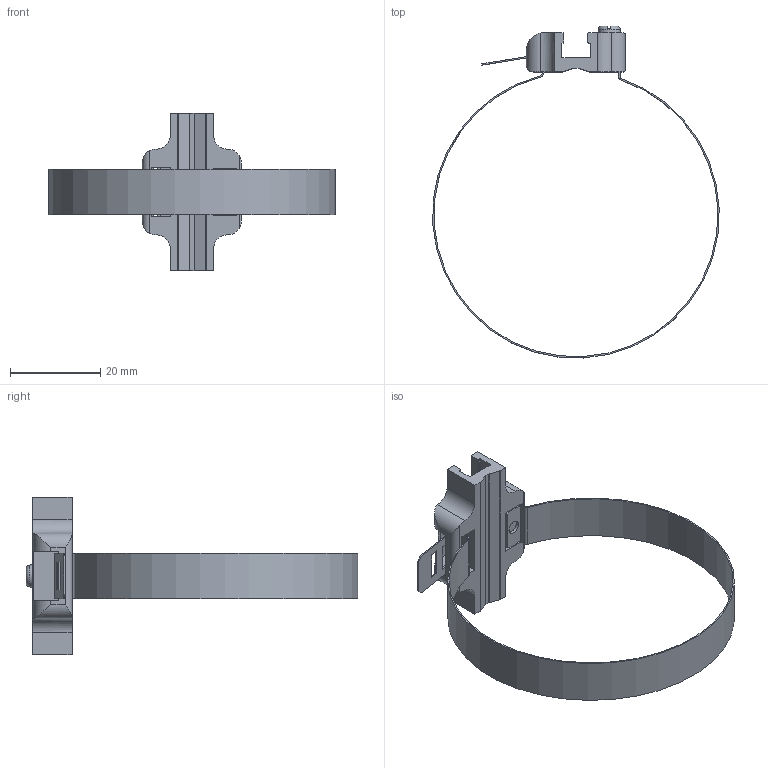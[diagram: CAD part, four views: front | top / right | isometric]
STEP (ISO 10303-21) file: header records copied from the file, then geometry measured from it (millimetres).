
FILE_DESCRIPTION( ( 'STEP AP214' ), ' ' );
FILE_NAME( 'p:/temp/worker_13/3124_3600/app_48_02017120213024875945945192d056f_000000_00_00_000000/format_0/SICK BEF-KHZ-RT1-130-1-Bestell-Nr.2077684 (63).stp', '2017-12-02T12:02:49', ( '' ), ( '' ), ' ', 'PARTsolutions', ' ' );
FILE_SCHEMA( ( 'AUTOMOTIVE_DESIGN { 1 0 10303 214 1 1 1 1 }' ) );
Length unit declared in the file: millimetre
Products named in the file (1): _SICK BEF-KHZ-RT1-130-1-Bestell-Nr.2077684 (63)
Bounding box: 63.5 x 73.6 x 35 mm (x, y, z)
Volume: 3465.4 mm3; surface area: 7184.6 mm2
Topology: 1 solids, 1 shells, 128 faces, 363 edges, 240 vertices
Faces by surface type: plane 77, cylinder 49, cone 1, torus 1
Full cylindrical faces by diameter (mm): 3 x2, 3.2 x1
Entity records: 5266 total; most frequent: CARTESIAN_POINT 847, ORIENTED_EDGE 712, DIRECTION 698, EDGE_CURVE 356, LINE 244, VECTOR 244, VERTEX_POINT 238, AXIS2_PLACEMENT_3D 227
